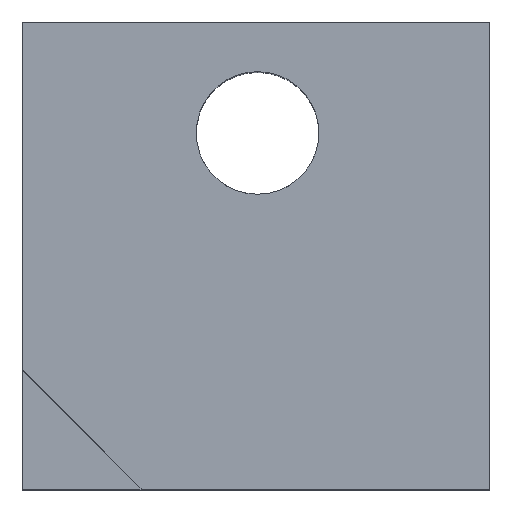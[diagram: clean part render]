
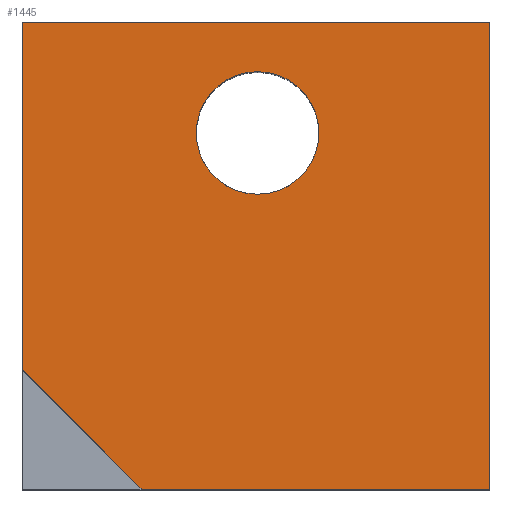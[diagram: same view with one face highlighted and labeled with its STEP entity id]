
A CAD part, top view. The second image highlights one B-rep face of the part: STEP entity #1445.
In plain terms, the highlighted planar face has unit normal (0, 0, 1).
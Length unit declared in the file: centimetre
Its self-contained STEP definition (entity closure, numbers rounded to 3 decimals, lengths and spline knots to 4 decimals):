
#16 = EDGE_CURVE ( 'NONE', #172, #717, #544, .T. ) ;
#36 = EDGE_CURVE ( 'NONE', #1086, #1236, #1148, .T. ) ;
#78 = CARTESIAN_POINT ( 'NONE',  ( 255.9969, 0., 1000. ) ) ;
#172 = VERTEX_POINT ( 'NONE', #503 ) ;
#207 = DIRECTION ( 'NONE',  ( 0., 1., 0. ) ) ;
#211 = EDGE_CURVE ( 'NONE', #447, #865, #640, .T. ) ;
#216 = DIRECTION ( 'NONE',  ( -0.707, 0.707, 0. ) ) ;
#235 = DIRECTION ( 'NONE',  ( 0., 0., 1. ) ) ;
#250 = FACE_OUTER_BOUND ( 'NONE', #1244, .T. ) ;
#267 = AXIS2_PLACEMENT_3D ( 'NONE', #646, #235, #1335 ) ;
#297 = EDGE_CURVE ( 'NONE', #717, #172, #1469, .T. ) ;
#306 = CARTESIAN_POINT ( 'NONE',  ( 503.3453, 762.5198, 1000. ) ) ;
#316 = DIRECTION ( 'NONE',  ( 1., 0., 0. ) ) ;
#355 = VERTEX_POINT ( 'NONE', #1632 ) ;
#371 = ORIENTED_EDGE ( 'NONE', *, *, #466, .T. ) ;
#440 = CARTESIAN_POINT ( 'NONE',  ( 0., 1000., 1000. ) ) ;
#447 = VERTEX_POINT ( 'NONE', #440 ) ;
#466 = EDGE_CURVE ( 'NONE', #355, #447, #735, .T. ) ;
#483 = DIRECTION ( 'NONE',  ( 1., 0., 0. ) ) ;
#498 = FACE_BOUND ( 'NONE', #1143, .T. ) ;
#503 = CARTESIAN_POINT ( 'NONE',  ( 634.5909, 762.5198, 1000. ) ) ;
#517 = PLANE ( 'NONE',  #267 ) ;
#540 = CARTESIAN_POINT ( 'NONE',  ( 0., 255.9969, 1000. ) ) ;
#544 = CIRCLE ( 'NONE', #1220, 131.2456 ) ;
#547 = VECTOR ( 'NONE', #207, 100. ) ;
#570 = VECTOR ( 'NONE', #1277, 100. ) ;
#596 = DIRECTION ( 'NONE',  ( 0., 0., 1. ) ) ;
#632 = ORIENTED_EDGE ( 'NONE', *, *, #36, .T. ) ;
#639 = ORIENTED_EDGE ( 'NONE', *, *, #16, .F. ) ;
#640 = LINE ( 'NONE', #1697, #1416 ) ;
#646 = CARTESIAN_POINT ( 'NONE',  ( 0., 0., 1000. ) ) ;
#715 = CARTESIAN_POINT ( 'NONE',  ( 1000., 1000., 1000. ) ) ;
#717 = VERTEX_POINT ( 'NONE', #1363 ) ;
#735 = LINE ( 'NONE', #1542, #570 ) ;
#751 = CARTESIAN_POINT ( 'NONE',  ( 1000., 0., 1000. ) ) ;
#865 = VERTEX_POINT ( 'NONE', #540 ) ;
#933 = AXIS2_PLACEMENT_3D ( 'NONE', #306, #1521, #316 ) ;
#1025 = EDGE_CURVE ( 'NONE', #1236, #355, #1644, .T. ) ;
#1028 = CARTESIAN_POINT ( 'NONE',  ( 503.3453, 762.5198, 1000. ) ) ;
#1029 = ORIENTED_EDGE ( 'NONE', *, *, #211, .T. ) ;
#1039 = DIRECTION ( 'NONE',  ( 0., -1., 0. ) ) ;
#1086 = VERTEX_POINT ( 'NONE', #78 ) ;
#1138 = CARTESIAN_POINT ( 'NONE',  ( 0., 0., 1000. ) ) ;
#1143 = EDGE_LOOP ( 'NONE', ( #639, #1145 ) ) ;
#1145 = ORIENTED_EDGE ( 'NONE', *, *, #297, .F. ) ;
#1148 = LINE ( 'NONE', #1138, #1575 ) ;
#1159 = EDGE_CURVE ( 'NONE', #1086, #865, #1301, .T. ) ;
#1220 = AXIS2_PLACEMENT_3D ( 'NONE', #1028, #596, #483 ) ;
#1236 = VERTEX_POINT ( 'NONE', #751 ) ;
#1244 = EDGE_LOOP ( 'NONE', ( #1275, #632, #1543, #371, #1029 ) ) ;
#1275 = ORIENTED_EDGE ( 'NONE', *, *, #1159, .F. ) ;
#1277 = DIRECTION ( 'NONE',  ( -1., 0., 0. ) ) ;
#1301 = LINE ( 'NONE', #1431, #1420 ) ;
#1335 = DIRECTION ( 'NONE',  ( 1., 0., 0. ) ) ;
#1363 = CARTESIAN_POINT ( 'NONE',  ( 372.0996, 762.5198, 1000. ) ) ;
#1416 = VECTOR ( 'NONE', #1039, 100. ) ;
#1420 = VECTOR ( 'NONE', #216, 100. ) ;
#1431 = CARTESIAN_POINT ( 'NONE',  ( 0., 255.9969, 1000. ) ) ;
#1445 = ADVANCED_FACE ( 'NONE', ( #498, #250 ), #517, .T. ) ;
#1469 = CIRCLE ( 'NONE', #933, 131.2456 ) ;
#1521 = DIRECTION ( 'NONE',  ( 0., 0., 1. ) ) ;
#1542 = CARTESIAN_POINT ( 'NONE',  ( 0., 1000., 1000. ) ) ;
#1543 = ORIENTED_EDGE ( 'NONE', *, *, #1025, .T. ) ;
#1575 = VECTOR ( 'NONE', #1660, 100. ) ;
#1632 = CARTESIAN_POINT ( 'NONE',  ( 1000., 1000., 1000. ) ) ;
#1644 = LINE ( 'NONE', #715, #547 ) ;
#1660 = DIRECTION ( 'NONE',  ( 1., 0., 0. ) ) ;
#1697 = CARTESIAN_POINT ( 'NONE',  ( 0., 1000., 1000. ) ) ;
